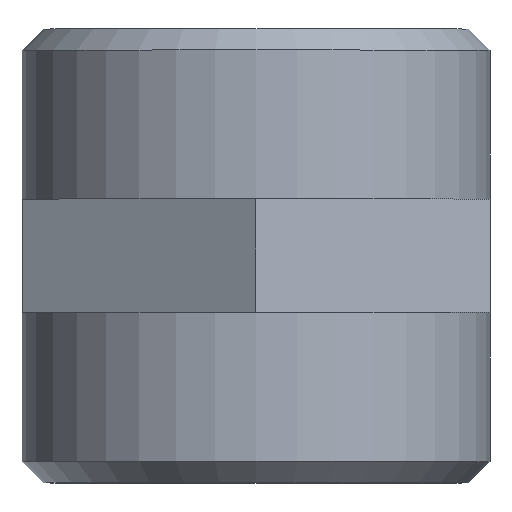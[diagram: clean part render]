
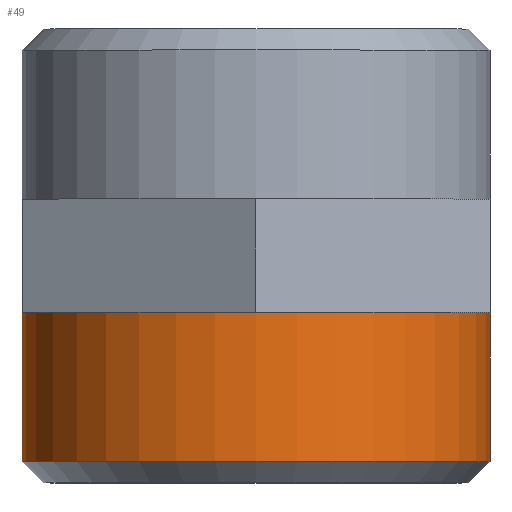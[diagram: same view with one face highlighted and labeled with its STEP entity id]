
A CAD part, top view. The second image highlights one B-rep face of the part: STEP entity #49.
In plain terms, the highlighted cylindrical face has radius 16.5 mm (diameter 33 mm), a full revolution.
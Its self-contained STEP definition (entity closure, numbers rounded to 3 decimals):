
#49=ADVANCED_FACE('',(#116,#118),#120,.T.);
#116=FACE_BOUND('',#117,.T.);
#117=EDGE_LOOP('',(#288,#289,#290,#291,#292,#293));
#118=FACE_OUTER_BOUND('',#119,.T.);
#119=EDGE_LOOP('',(#294));
#120=CYLINDRICAL_SURFACE('',#121,16.5);
#121=AXIS2_PLACEMENT_3D('',#122,#123,#124);
#122=CARTESIAN_POINT('',(0.,-16.,0.));
#123=DIRECTION('',(0.,1.,0.));
#124=DIRECTION('',(-1.,0.,0.));
#288=ORIENTED_EDGE('',*,*,#386,.T.);
#289=ORIENTED_EDGE('',*,*,#387,.T.);
#290=ORIENTED_EDGE('',*,*,#388,.T.);
#291=ORIENTED_EDGE('',*,*,#389,.T.);
#292=ORIENTED_EDGE('',*,*,#390,.T.);
#293=ORIENTED_EDGE('',*,*,#391,.T.);
#294=ORIENTED_EDGE('',*,*,#384,.T.);
#384=EDGE_CURVE('',#440,#440,#441,.T.);
#386=EDGE_CURVE('',#444,#445,#446,.F.);
#387=EDGE_CURVE('',#445,#447,#448,.F.);
#388=EDGE_CURVE('',#447,#449,#450,.F.);
#389=EDGE_CURVE('',#449,#451,#452,.F.);
#390=EDGE_CURVE('',#451,#453,#454,.F.);
#391=EDGE_CURVE('',#453,#444,#455,.F.);
#440=VERTEX_POINT('',#540);
#441=CIRCLE('',#541,16.5);
#444=VERTEX_POINT('',#550);
#445=VERTEX_POINT('',#551);
#446=CIRCLE('',#552,16.5);
#447=VERTEX_POINT('',#556);
#448=CIRCLE('',#557,16.5);
#449=VERTEX_POINT('',#561);
#450=CIRCLE('',#562,16.5);
#451=VERTEX_POINT('',#566);
#452=CIRCLE('',#567,16.5);
#453=VERTEX_POINT('',#571);
#454=CIRCLE('',#572,16.5);
#455=CIRCLE('',#576,16.5);
#540=CARTESIAN_POINT('',(-16.5,-14.5,0.));
#541=AXIS2_PLACEMENT_3D('',#542,#543,#544);
#542=CARTESIAN_POINT('',(0.,-14.5,0.));
#543=DIRECTION('',(0.,1.,0.));
#544=DIRECTION('',(-1.,0.,0.));
#550=CARTESIAN_POINT('',(16.5,-4.,0.));
#551=CARTESIAN_POINT('',(8.25,-4.,14.289));
#552=AXIS2_PLACEMENT_3D('',#553,#554,#555);
#553=CARTESIAN_POINT('',(0.,-4.,0.));
#554=DIRECTION('',(0.,1.,0.));
#555=DIRECTION('',(0.5,0.,0.866));
#556=CARTESIAN_POINT('',(-8.25,-4.,14.289));
#557=AXIS2_PLACEMENT_3D('',#558,#559,#560);
#558=CARTESIAN_POINT('',(0.,-4.,0.));
#559=DIRECTION('',(0.,1.,0.));
#560=DIRECTION('',(-0.5,0.,0.866));
#561=CARTESIAN_POINT('',(-16.5,-4.,0.));
#562=AXIS2_PLACEMENT_3D('',#563,#564,#565);
#563=CARTESIAN_POINT('',(0.,-4.,0.));
#564=DIRECTION('',(0.,1.,0.));
#565=DIRECTION('',(-1.,0.,0.));
#566=CARTESIAN_POINT('',(-8.25,-4.,-14.289));
#567=AXIS2_PLACEMENT_3D('',#568,#569,#570);
#568=CARTESIAN_POINT('',(0.,-4.,0.));
#569=DIRECTION('',(0.,1.,0.));
#570=DIRECTION('',(-0.5,0.,-0.866));
#571=CARTESIAN_POINT('',(8.25,-4.,-14.289));
#572=AXIS2_PLACEMENT_3D('',#573,#574,#575);
#573=CARTESIAN_POINT('',(0.,-4.,0.));
#574=DIRECTION('',(0.,1.,0.));
#575=DIRECTION('',(0.5,0.,-0.866));
#576=AXIS2_PLACEMENT_3D('',#577,#578,#579);
#577=CARTESIAN_POINT('',(0.,-4.,0.));
#578=DIRECTION('',(0.,1.,0.));
#579=DIRECTION('',(1.,0.,0.));
